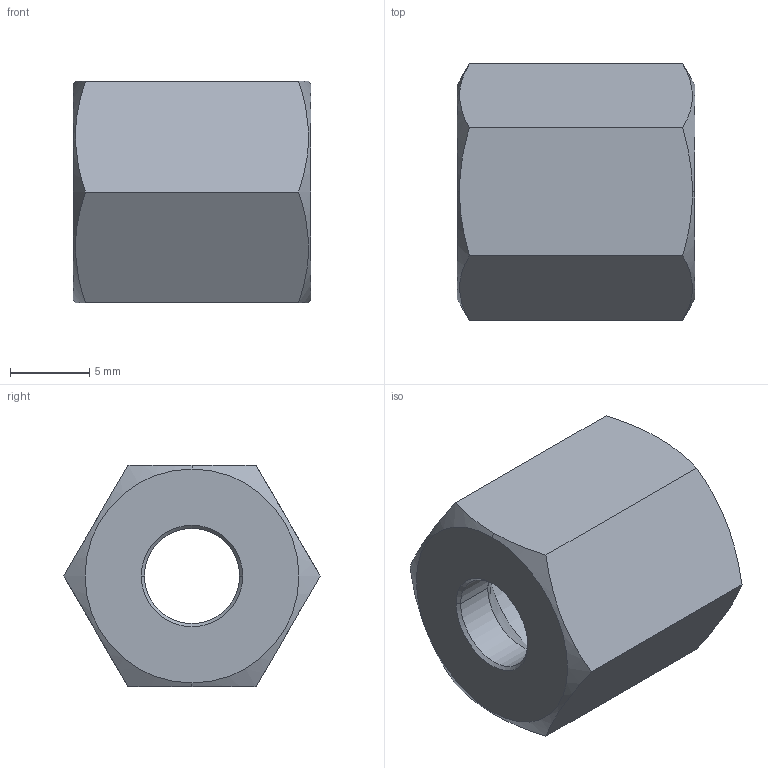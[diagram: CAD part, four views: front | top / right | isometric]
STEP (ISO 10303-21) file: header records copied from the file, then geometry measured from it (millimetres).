
FILE_DESCRIPTION((''),'2;1');
FILE_NAME('100204.stp','2006-03-06T15:11:51',('Dario Falcomer'),('CAST S.p.A.'),'AutoCAD STEP 2000i','AutoCAD 2000i',', , ');
FILE_SCHEMA(('CONFIG_CONTROL_DESIGN'));
Length unit declared in the file: millimetre
Products named in the file (2): 100204.0; CHIAVE_DADI#0
Assembly tree (1 placements, depth 2):
  100204.0
    CHIAVE_DADI#0
Bounding box: 15 x 16.17 x 14 mm (x, y, z)
Volume: 1422.1 mm3; surface area: 1369.7 mm2
Topology: 1 solids, 1 shells, 22 faces, 52 edges, 32 vertices
Faces by surface type: cone 10, plane 8, cylinder 4
Entity records: 725 total; most frequent: CARTESIAN_POINT 140, ORIENTED_EDGE 104, DIRECTION 100, EDGE_CURVE 52, AXIS2_PLACEMENT_3D 40, VERTEX_POINT 32, EDGE_LOOP 24, FACE_OUTER_BOUND 22
